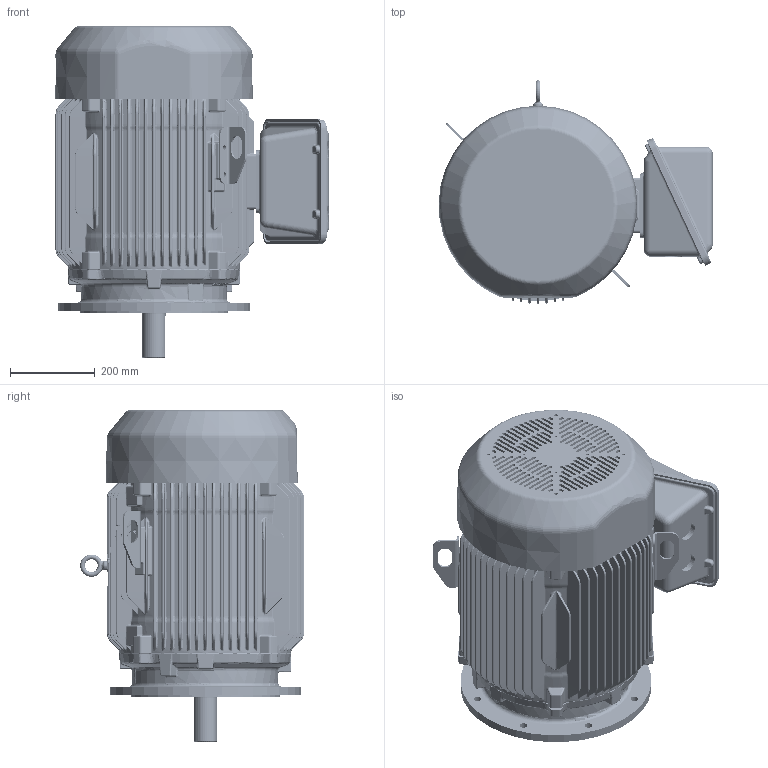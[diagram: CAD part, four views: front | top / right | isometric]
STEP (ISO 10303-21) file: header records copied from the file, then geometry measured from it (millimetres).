
FILE_DESCRIPTION((''),'2;1');
FILE_NAME('225_B5_ASM_ASM','2020-09-10T08:24:31',('EMD2341'),('Nidec Motor Corporation'),'CREO PARAMETRIC BY PTC INC, 2019080','CREO PARAMETRIC BY PTC INC, 2019080','');
FILE_SCHEMA(('CONFIG_CONTROL_DESIGN'));
Length unit declared in the file: inch
Products named in the file (11): 360_FOOTLESS_FRAME; 0133166; 360_CAST_GSK_OBB; 225_IEC; 360_CAST_GSK_OBC; 360_CAST_OBC; 360_STL_FCVR; 225_B5; 225_2POLE; 2020046; 225_B5_ASM_ASM
Assembly tree (11 placements, depth 2):
  225_B5_ASM_ASM
    360_FOOTLESS_FRAME
    0133166
    360_CAST_GSK_OBB
    225_IEC
    360_CAST_GSK_OBC
    360_CAST_OBC
    360_STL_FCVR
    225_B5
    225_2POLE
    2020046  x2
Bounding box: 646.81 x 526.67 x 780.41 mm (x, y, z)
Volume: 103965180 mm3; surface area: 3800315.3 mm2
Topology: 11 solids, 12 shells, 5635 faces, 12859 edges, 7380 vertices
Faces by surface type: bspline 2392, plane 1188, cylinder 1121, extrusion 448, torus 318, sphere 98, cone 70
Entity records: 263378 total; most frequent: CARTESIAN_POINT 154024, ORIENTED_EDGE 25574, DIRECTION 17936, EDGE_CURVE 12789, VERTEX_POINT 7336, AXIS2_PLACEMENT_3D 6652, EDGE_LOOP 5775, FACE_OUTER_BOUND 5607
